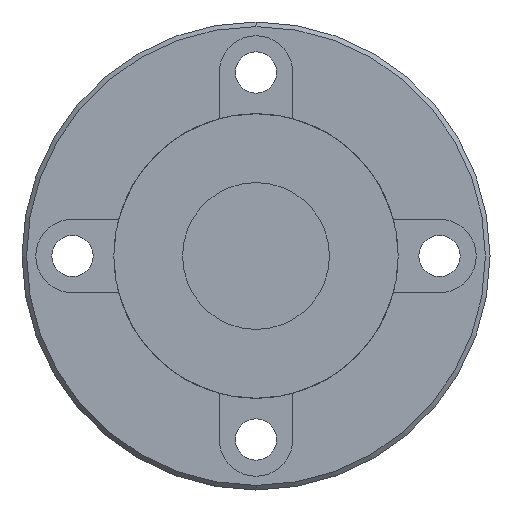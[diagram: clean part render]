
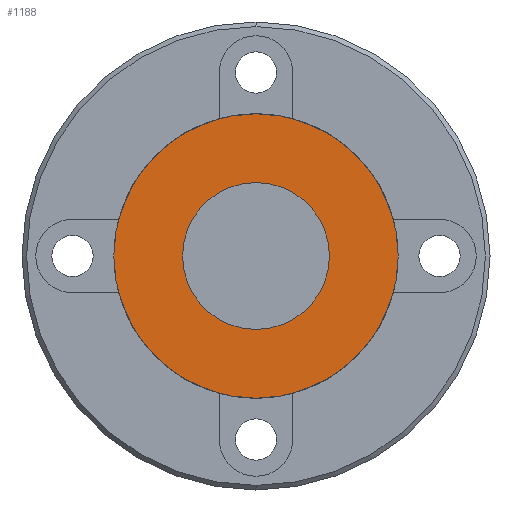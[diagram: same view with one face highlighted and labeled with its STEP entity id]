
A CAD part, left-side view. The second image highlights one B-rep face of the part: STEP entity #1188.
In plain terms, the highlighted planar face has unit normal (-1, 0, 0) as drawn and (0, 0, 1) by its records, which use the part's own axes.
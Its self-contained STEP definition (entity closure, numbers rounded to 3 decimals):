
#93 = CARTESIAN_POINT ( 'NONE',  ( -15.5, 0., 5.5 ) ) ;
#112 = EDGE_CURVE ( 'NONE', #222, #2406, #2722, .T. ) ;
#163 = CARTESIAN_POINT ( 'NONE',  ( 0., 25.5, 5.5 ) ) ;
#211 = ORIENTED_EDGE ( 'NONE', *, *, #1831, .T. ) ;
#222 = VERTEX_POINT ( 'NONE', #831 ) ;
#287 = EDGE_LOOP ( 'NONE', ( #211, #1196 ) ) ;
#305 = DIRECTION ( 'NONE',  ( -1., 0., 0. ) ) ;
#656 = CARTESIAN_POINT ( 'NONE',  ( 15.5, 0., 5.5 ) ) ;
#805 = CIRCLE ( 'NONE', #1201, 8. ) ;
#831 = CARTESIAN_POINT ( 'NONE',  ( 8., 0., 5.5 ) ) ;
#835 = DIRECTION ( 'NONE',  ( -1., 0., 0. ) ) ;
#882 = EDGE_CURVE ( 'NONE', #1269, #1469, #1091, .T. ) ;
#1003 = CARTESIAN_POINT ( 'NONE',  ( 0., 0., 5.5 ) ) ;
#1064 = ORIENTED_EDGE ( 'NONE', *, *, #882, .F. ) ;
#1091 = CIRCLE ( 'NONE', #2223, 15.5 ) ;
#1188 = ADVANCED_FACE ( 'NONE', ( #1224, #2247 ), #2056, .F. ) ;
#1196 = ORIENTED_EDGE ( 'NONE', *, *, #112, .T. ) ;
#1201 = AXIS2_PLACEMENT_3D ( 'NONE', #1003, #1826, #835 ) ;
#1224 = FACE_BOUND ( 'NONE', #287, .T. ) ;
#1269 = VERTEX_POINT ( 'NONE', #656 ) ;
#1360 = ORIENTED_EDGE ( 'NONE', *, *, #1415, .F. ) ;
#1415 = EDGE_CURVE ( 'NONE', #1469, #1269, #1447, .T. ) ;
#1420 = DIRECTION ( 'NONE',  ( -1., 0., 0. ) ) ;
#1447 = CIRCLE ( 'NONE', #2325, 15.5 ) ;
#1455 = CARTESIAN_POINT ( 'NONE',  ( 0., 0., 5.5 ) ) ;
#1469 = VERTEX_POINT ( 'NONE', #93 ) ;
#1588 = DIRECTION ( 'NONE',  ( 0., 0., -1. ) ) ;
#1606 = EDGE_LOOP ( 'NONE', ( #1360, #1064 ) ) ;
#1716 = CARTESIAN_POINT ( 'NONE',  ( 0., 0., 5.5 ) ) ;
#1826 = DIRECTION ( 'NONE',  ( 0., 0., -1. ) ) ;
#1831 = EDGE_CURVE ( 'NONE', #2406, #222, #805, .T. ) ;
#1844 = DIRECTION ( 'NONE',  ( 0., 0., -1. ) ) ;
#1853 = CARTESIAN_POINT ( 'NONE',  ( -8., 0., 5.5 ) ) ;
#1871 = AXIS2_PLACEMENT_3D ( 'NONE', #163, #1844, #2425 ) ;
#2056 = PLANE ( 'NONE',  #1871 ) ;
#2167 = CARTESIAN_POINT ( 'NONE',  ( 0., 0., 5.5 ) ) ;
#2223 = AXIS2_PLACEMENT_3D ( 'NONE', #2167, #1588, #305 ) ;
#2247 = FACE_OUTER_BOUND ( 'NONE', #1606, .T. ) ;
#2325 = AXIS2_PLACEMENT_3D ( 'NONE', #1716, #2561, #2410 ) ;
#2406 = VERTEX_POINT ( 'NONE', #1853 ) ;
#2410 = DIRECTION ( 'NONE',  ( -1., 0., 0. ) ) ;
#2425 = DIRECTION ( 'NONE',  ( -1., 0., 0. ) ) ;
#2510 = DIRECTION ( 'NONE',  ( 0., 0., -1. ) ) ;
#2561 = DIRECTION ( 'NONE',  ( 0., 0., -1. ) ) ;
#2634 = AXIS2_PLACEMENT_3D ( 'NONE', #1455, #2510, #1420 ) ;
#2722 = CIRCLE ( 'NONE', #2634, 8. ) ;
